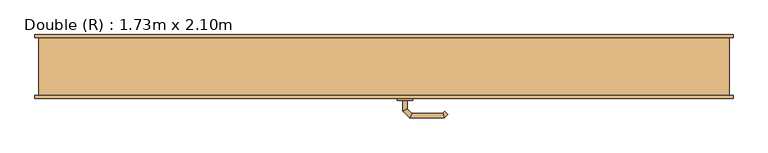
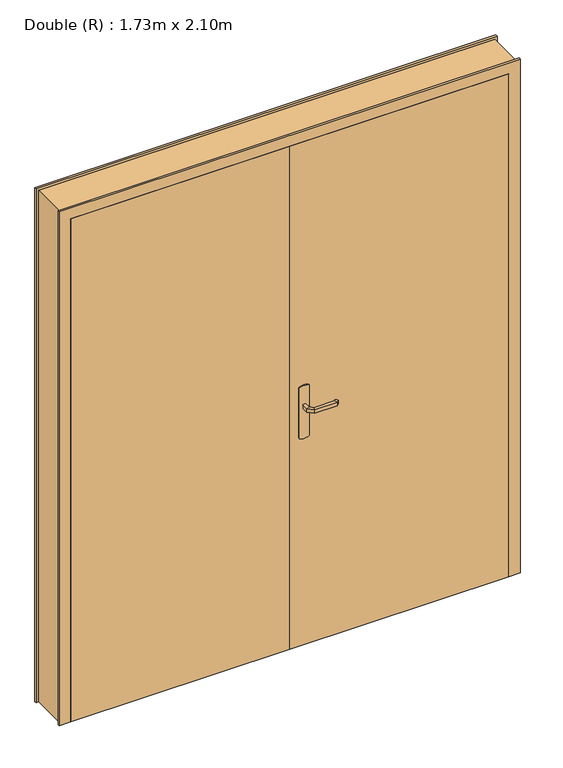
"""IFC4 building model written with IfcOpenShell, lengths in millimetres: door geometry, Double (R) : 1.73m x 2.10m."""

from ifc_helpers import new_model, si_unit, point, frame, frame_2d, origin, origin_with_axes, place, context, project, spatial, polyline, circle_curve, ellipse_curve, trimmed, segment, composite_curve, outline, extrude, faceted_brep, source, transform, mapped, element, save
from ifc_brep_helpers import plane_surface, cylinder_surface, advanced_brep


def double_r_1_73m_x_2_10m_095f5508(model_context):
    return source(origin(), model_context, "Body", "SolidModel", [
        advanced_brep(
        [(61.0, -38.0, 993.0), (61.0, -38.0, 1007.0), (49.0, -38.0, 1007.0), (49.0, -38.0, 993.0), (61.0, -15.5147955, 993.0), (61.0, -15.5147955, 1007.0), (49.0, -10.5442327, 1007.0), (49.0, -10.5442327, 993.0), (72.4852814, -4.0295141, 993.0), (72.4852814, -4.0295141, 1007.0), (67.5147186, 7.9704859, 1007.0), (67.5147186, 7.9704859, 993.0), (152.5605023, -4.0295141, 993.0), (152.5605023, -4.0295141, 1007.0), (157.531065, 7.9704859, 1007.0), (157.531065, 7.9704859, 993.0), (157.8742108, -9.3432226, 993.0), (166.3594922, -0.8579412, 993.0), (166.3594922, -0.8579412, 1007.0), (157.8742108, -9.3432226, 1007.0)],
        [
            (0, 1),
            (1, 2, circle_curve(frame((55.0, -38.0, 986.9542278), z_axis=(0.0, -1.0, 0.0), x_axis=(-1.0, 0.0, 0.0)), 20.9244589)),
            (2, 3),
            (3, 0, circle_curve(frame((55.0, -38.0, 1013.0457722), z_axis=(0.0, -1.0, 0.0), x_axis=(-1.0, 0.0, 0.0)), 20.9244589)),
            (0, 4),
            (4, 5),
            (5, 1),
            (5, 6, ellipse_curve(frame((55.0, -13.0295141, 986.9542278), z_axis=(-0.38268343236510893, -0.9238795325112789, 0.0), x_axis=(0.9238795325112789, -0.3826834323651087, 0.0)), 22.6484711, 20.9244589)),
            (6, 2),
            (6, 7),
            (7, 3),
            (7, 4, ellipse_curve(frame((55.0, -13.0295141, 1013.0457722), z_axis=(-0.38268343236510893, -0.9238795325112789, 0.0), x_axis=(0.9238795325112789, -0.3826834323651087, 0.0)), 22.6484711, 20.9244589)),
            (4, 8),
            (8, 9),
            (9, 5),
            (9, 10, ellipse_curve(frame((70.0, 1.9704859, 986.9542278), z_axis=(-0.9238795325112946, -0.38268343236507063, 0.0), x_axis=(0.3826834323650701, -0.9238795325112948, 0.0)), 22.6484711, 20.9244589)),
            (10, 6),
            (10, 11),
            (11, 7),
            (11, 8, ellipse_curve(frame((70.0, 1.9704859, 1013.0457722), z_axis=(-0.9238795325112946, -0.38268343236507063, 0.0), x_axis=(0.3826834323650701, -0.9238795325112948, 0.0)), 22.6484711, 20.9244589)),
            (8, 12),
            (12, 13),
            (13, 9),
            (13, 14, ellipse_curve(frame((155.0457837, 1.9704859, 986.9542278), z_axis=(-0.9238795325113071, 0.38268343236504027, 0.0), x_axis=(-0.38268343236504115, -0.9238795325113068, 0.0)), 22.6484711, 20.9244589)),
            (14, 10),
            (14, 15),
            (15, 11),
            (15, 12, ellipse_curve(frame((155.0457837, 1.9704859, 1013.0457722), z_axis=(-0.9238795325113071, 0.38268343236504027, 0.0), x_axis=(-0.38268343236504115, -0.9238795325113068, 0.0)), 22.6484711, 20.9244589)),
            (16, 17, circle_curve(frame((162.1168515, -5.1005819, 1013.0457722), z_axis=(0.7071067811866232, -0.7071067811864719, 0.0), x_axis=(0.7071067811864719, 0.7071067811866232, 0.0)), 20.9244589)),
            (17, 18),
            (18, 19, circle_curve(frame((162.1168515, -5.1005819, 986.9542278), z_axis=(0.7071067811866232, -0.7071067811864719, 0.0), x_axis=(0.7071067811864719, 0.7071067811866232, 0.0)), 20.9244589)),
            (19, 16),
            (12, 16),
            (19, 13),
            (18, 14),
            (17, 15),
        ],
        [
            plane_surface(frame((45.7804555, -38.0, 1000.0), z_axis=(0.0, -1.0, 0.0), x_axis=(0.0, 0.0, 1.0))),
            plane_surface(frame((61.0, -38.0, 993.0), z_axis=(1.0, 0.0, 0.0), x_axis=(0.0, 1.0, 0.0))),
            cylinder_surface(frame((55.0, -38.0, 986.9542278), z_axis=(0.0, -1.0, 0.0), x_axis=(-1.0, 0.0, 0.0)), 20.9244589),
            plane_surface(frame((49.0, -38.0, 1007.0), z_axis=(-1.0, 0.0, 0.0), x_axis=(0.0, 1.0, 0.0))),
            cylinder_surface(frame((55.0, -38.0, 1013.0457722), z_axis=(0.0, -1.0, 0.0), x_axis=(-1.0, 0.0, 0.0)), 20.9244589),
            plane_surface(frame((61.0, -15.5147955, 993.0), z_axis=(0.707106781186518, -0.707106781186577, 0.0), x_axis=(0.707106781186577, 0.707106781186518, 0.0))),
            cylinder_surface(frame((55.0, -13.0295141, 986.9542278), z_axis=(-0.7071067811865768, -0.7071067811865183, 0.0), x_axis=(-0.7071067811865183, 0.7071067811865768, 0.0)), 20.9244589),
            plane_surface(frame((49.0, -10.5442327, 1007.0), z_axis=(-0.7071067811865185, 0.7071067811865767, 0.0), x_axis=(0.7071067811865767, 0.7071067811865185, 0.0))),
            cylinder_surface(frame((55.0, -13.0295141, 1013.0457722), z_axis=(-0.7071067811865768, -0.7071067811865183, 0.0), x_axis=(-0.7071067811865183, 0.7071067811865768, 0.0)), 20.9244589),
            plane_surface(frame((72.4852814, -4.0295141, 993.0), z_axis=(0.0, -1.0, 0.0), x_axis=(1.0, 0.0, 0.0))),
            cylinder_surface(frame((70.0, 1.9704859, 986.9542278), z_axis=(-1.0, 0.0, 0.0), x_axis=(0.0, 1.0, 0.0)), 20.9244589),
            plane_surface(frame((67.5147186, 7.9704859, 1007.0), z_axis=(0.0, 1.0, 0.0), x_axis=(1.0, 0.0, 0.0))),
            cylinder_surface(frame((70.0, 1.9704859, 1013.0457722), z_axis=(-1.0, 0.0, 0.0), x_axis=(0.0, 1.0, 0.0)), 20.9244589),
            plane_surface(frame((162.1168515, -5.1005819, 990.7804555), z_axis=(0.7071067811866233, -0.7071067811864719, 0.0), x_axis=(0.7071067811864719, 0.7071067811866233, 0.0))),
            plane_surface(frame((152.5605023, -4.0295141, 993.0), z_axis=(-0.707106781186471, -0.7071067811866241, 0.0), x_axis=(0.7071067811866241, -0.707106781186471, 0.0))),
            cylinder_surface(frame((155.0457837, 1.9704859, 986.9542278), z_axis=(-0.7071067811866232, 0.7071067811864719, 0.0), x_axis=(0.7071067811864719, 0.7071067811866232, 0.0)), 20.9244589),
            plane_surface(frame((157.531065, 7.9704859, 1007.0), z_axis=(0.7071067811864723, 0.7071067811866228, 0.0), x_axis=(0.7071067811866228, -0.7071067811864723, 0.0))),
            cylinder_surface(frame((155.0457837, 1.9704859, 1013.0457722), z_axis=(-0.7071067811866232, 0.7071067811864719, 0.0), x_axis=(0.7071067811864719, 0.7071067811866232, 0.0)), 20.9244589),
        ],
        [
            (0, [[1, 2, 3, 4]]),
            (1, [[-1, 5, 6, 7]]),
            (2, [[-2, -7, 8, 9]]),
            (3, [[-3, -9, 10, 11]]),
            (4, [[-4, -11, 12, -5]]),
            (5, [[-6, 13, 14, 15]]),
            (6, [[-8, -15, 16, 17]]),
            (7, [[-10, -17, 18, 19]]),
            (8, [[-12, -19, 20, -13]]),
            (9, [[-14, 21, 22, 23]]),
            (10, [[-16, -23, 24, 25]]),
            (11, [[-18, -25, 26, 27]]),
            (12, [[-20, -27, 28, -21]]),
            (13, [[29, 30, 31, 32]]),
            (14, [[-22, 33, -32, 34]]),
            (15, [[-24, -34, -31, 35]]),
            (16, [[-26, -35, -30, 36]]),
            (17, [[-28, -36, -29, -33]]),
        ],
    ),
        advanced_brep(
        [(49.0, -88.0, 1007.0), (61.0, -88.0, 1007.0), (61.0, -88.0, 993.0), (49.0, -88.0, 993.0), (49.0, -115.6509507, 1007.0), (61.0, -110.680388, 1007.0), (61.0, -110.680388, 993.0), (49.0, -115.6509507, 993.0), (67.37721, -134.0281607, 1007.0), (72.3477727, -122.0281607, 1007.0), (72.3477727, -122.0281607, 993.0), (67.37721, -134.0281607, 993.0), (157.503922, -134.0281607, 1007.0), (152.5333592, -122.0281607, 1007.0), (152.5333592, -122.0281607, 993.0), (157.503922, -134.0281607, 993.0), (166.3323491, -125.1997336, 1007.0), (166.3323491, -125.1997336, 993.0), (157.8470677, -116.7144522, 993.0), (157.8470677, -116.7144522, 1007.0)],
        [
            (0, 1, circle_curve(frame((55.0, -88.0, 986.9542278), z_axis=(0.0, 1.0, 0.0), x_axis=(1.0, 0.0, 0.0)), 20.9244589)),
            (1, 2),
            (2, 3, circle_curve(frame((55.0, -88.0, 1013.0457722), z_axis=(0.0, 1.0, 0.0), x_axis=(1.0, 0.0, 0.0)), 20.9244589)),
            (3, 0),
            (0, 4),
            (4, 5, ellipse_curve(frame((55.0, -113.1656693, 986.9542278), z_axis=(-0.3826834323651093, 0.9238795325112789, 0.0), x_axis=(0.9238795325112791, 0.38268343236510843, 0.0)), 22.6484711, 20.9244589)),
            (5, 1),
            (5, 6),
            (6, 2),
            (6, 7, ellipse_curve(frame((55.0, -113.1656693, 1013.0457722), z_axis=(-0.3826834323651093, 0.9238795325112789, 0.0), x_axis=(0.9238795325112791, 0.38268343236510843, 0.0)), 22.6484711, 20.9244589)),
            (7, 3),
            (7, 4),
            (4, 8),
            (8, 9, ellipse_curve(frame((69.8624914, -128.0281607, 986.9542278), z_axis=(-0.9238795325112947, 0.38268343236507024, 0.0), x_axis=(0.3826834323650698, 0.9238795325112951, 0.0)), 22.6484711, 20.9244589)),
            (9, 5),
            (9, 10),
            (10, 6),
            (10, 11, ellipse_curve(frame((69.8624914, -128.0281607, 1013.0457722), z_axis=(-0.9238795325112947, 0.38268343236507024, 0.0), x_axis=(0.3826834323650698, 0.9238795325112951, 0.0)), 22.6484711, 20.9244589)),
            (11, 7),
            (11, 8),
            (8, 12),
            (12, 13, ellipse_curve(frame((155.0186406, -128.0281607, 986.9542278), z_axis=(-0.9238795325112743, -0.3826834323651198, 0.0), x_axis=(-0.38268343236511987, 0.9238795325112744, 0.0)), 22.6484711, 20.9244589)),
            (13, 9),
            (13, 14),
            (14, 10),
            (14, 15, ellipse_curve(frame((155.0186406, -128.0281607, 1013.0457722), z_axis=(-0.9238795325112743, -0.3826834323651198, 0.0), x_axis=(-0.38268343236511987, 0.9238795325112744, 0.0)), 22.6484711, 20.9244589)),
            (15, 11),
            (15, 12),
            (16, 17),
            (17, 18, circle_curve(frame((162.0897084, -120.9570929, 1013.0457722), z_axis=(0.7071067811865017, 0.7071067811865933, 0.0), x_axis=(-0.7071067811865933, 0.7071067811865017, 0.0)), 20.9244589)),
            (18, 19),
            (19, 16, circle_curve(frame((162.0897084, -120.9570929, 986.9542278), z_axis=(0.7071067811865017, 0.7071067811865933, 0.0), x_axis=(-0.7071067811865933, 0.7071067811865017, 0.0)), 20.9244589)),
            (12, 16),
            (19, 13),
            (18, 14),
            (17, 15),
        ],
        [
            plane_surface(frame((45.7804555, -88.0, 1000.0), z_axis=(0.0, 1.0, 0.0), x_axis=(0.0, 0.0, -1.0))),
            cylinder_surface(frame((55.0, -88.0, 986.9542278), z_axis=(0.0, 1.0, 0.0), x_axis=(1.0, 0.0, 0.0)), 20.9244589),
            plane_surface(frame((61.0, -88.0, 1007.0), z_axis=(1.0, 0.0, 0.0), x_axis=(0.0, -1.0, 0.0))),
            cylinder_surface(frame((55.0, -88.0, 1013.0457722), z_axis=(0.0, 1.0, 0.0), x_axis=(1.0, 0.0, 0.0)), 20.9244589),
            plane_surface(frame((49.0, -88.0, 993.0), z_axis=(-1.0, 0.0, 0.0), x_axis=(0.0, -1.0, 0.0))),
            cylinder_surface(frame((55.0, -113.1656693, 986.9542278), z_axis=(-0.7071067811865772, 0.7071067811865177, 0.0), x_axis=(0.7071067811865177, 0.7071067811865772, 0.0)), 20.9244589),
            plane_surface(frame((61.0, -110.680388, 1007.0), z_axis=(0.7071067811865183, 0.7071067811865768, 0.0), x_axis=(0.7071067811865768, -0.7071067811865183, 0.0))),
            cylinder_surface(frame((55.0, -113.1656693, 1013.0457722), z_axis=(-0.7071067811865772, 0.7071067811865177, 0.0), x_axis=(0.7071067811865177, 0.7071067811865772, 0.0)), 20.9244589),
            plane_surface(frame((49.0, -115.6509507, 993.0), z_axis=(-0.707106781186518, -0.707106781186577, 0.0), x_axis=(0.707106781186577, -0.707106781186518, 0.0))),
            cylinder_surface(frame((69.8624914, -128.0281607, 986.9542278), z_axis=(-1.0, 0.0, 0.0), x_axis=(0.0, 1.0, 0.0)), 20.9244589),
            plane_surface(frame((72.3477727, -122.0281607, 1007.0), z_axis=(0.0, 1.0, 0.0), x_axis=(1.0, 0.0, 0.0))),
            cylinder_surface(frame((69.8624914, -128.0281607, 1013.0457722), z_axis=(-1.0, 0.0, 0.0), x_axis=(0.0, 1.0, 0.0)), 20.9244589),
            plane_surface(frame((67.37721, -134.0281607, 993.0), z_axis=(0.0, -1.0, 0.0), x_axis=(1.0, 0.0, 0.0))),
            plane_surface(frame((162.0897084, -120.9570929, 1009.2195445), z_axis=(0.7071067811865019, 0.7071067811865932, 0.0), x_axis=(0.7071067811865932, -0.7071067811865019, 0.0))),
            cylinder_surface(frame((155.0186406, -128.0281607, 986.9542278), z_axis=(-0.7071067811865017, -0.7071067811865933, 0.0), x_axis=(-0.7071067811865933, 0.7071067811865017, 0.0)), 20.9244589),
            plane_surface(frame((152.5333592, -122.0281607, 1007.0), z_axis=(-0.7071067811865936, 0.7071067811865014, 0.0), x_axis=(0.7071067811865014, 0.7071067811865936, 0.0))),
            cylinder_surface(frame((155.0186406, -128.0281607, 1013.0457722), z_axis=(-0.7071067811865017, -0.7071067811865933, 0.0), x_axis=(-0.7071067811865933, 0.7071067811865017, 0.0)), 20.9244589),
            plane_surface(frame((157.503922, -134.0281607, 993.0), z_axis=(0.707106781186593, -0.7071067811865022, 0.0), x_axis=(0.7071067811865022, 0.707106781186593, 0.0))),
        ],
        [
            (0, [[1, 2, 3, 4]]),
            (1, [[-1, 5, 6, 7]]),
            (2, [[-2, -7, 8, 9]]),
            (3, [[-3, -9, 10, 11]]),
            (4, [[-4, -11, 12, -5]]),
            (5, [[-6, 13, 14, 15]]),
            (6, [[-8, -15, 16, 17]]),
            (7, [[-10, -17, 18, 19]]),
            (8, [[-12, -19, 20, -13]]),
            (9, [[-14, 21, 22, 23]]),
            (10, [[-16, -23, 24, 25]]),
            (11, [[-18, -25, 26, 27]]),
            (12, [[-20, -27, 28, -21]]),
            (13, [[29, 30, 31, 32]]),
            (14, [[-22, 33, -32, 34]]),
            (15, [[-24, -34, -31, 35]]),
            (16, [[-26, -35, -30, 36]]),
            (17, [[-28, -36, -29, -33]]),
        ],
    ),
        extrude(outline(composite_curve([segment(trimmed(circle_curve(frame_2d((1045.3589838, 55.0)), 40.0), [point((1080.0, 75.0))], [point((1080.0, 35.0))], False, "CARTESIAN"), True, "CONTINUOUS"), segment(polyline([(1080.0, 35.0), (870.0, 35.0)]), True, "CONTINUOUS"), segment(trimmed(circle_curve(frame_2d((904.6410162, 55.0)), 40.0), [point((870.0, 35.0))], [point((870.0, 75.0))], False, "CARTESIAN"), True, "CONTINUOUS"), segment(polyline([(870.0, 75.0), (1080.0, 75.0)]), True, "CONTINUOUS")], self_intersect=False)), frame((0.0, -43.0, 0.0), z_axis=(0.0, 1.0, 0.0), x_axis=(0.0, 0.0, 1.0)), (0.0, 0.0, 1.0), 5.0),
        extrude(outline(composite_curve([segment(trimmed(circle_curve(frame_2d((904.6410162, 55.0)), 40.0), [point((870.0, 35.0))], [point((870.0, 75.0))], False, "CARTESIAN"), True, "CONTINUOUS"), segment(polyline([(870.0, 75.0), (1080.0, 75.0)]), True, "CONTINUOUS"), segment(trimmed(circle_curve(frame_2d((1045.3589838, 55.0)), 40.0), [point((1080.0, 75.0))], [point((1080.0, 35.0))], False, "CARTESIAN"), True, "CONTINUOUS"), segment(polyline([(1080.0, 35.0), (870.0, 35.0)]), True, "CONTINUOUS")], self_intersect=False)), frame((0.0, -88.0, 0.0), z_axis=(0.0, 1.0, 0.0), x_axis=(0.0, 0.0, 1.0)), (0.0, 0.0, 1.0), 5.0),
        faceted_brep([(-900.0, -75.0, 0.0), (-900.0, 75.0, 0.0), (-910.0, 75.0, 0.0), (-910.0, 83.0, 0.0), (-850.0, 83.0, 0.0), (-850.0, -43.0, 0.0), (-865.0, -43.0, 0.0), (-865.0, -83.0, 0.0), (-910.0, -83.0, 0.0), (-910.0, -75.0, 0.0), (-900.0, -75.0, 2135.0), (-900.0, 75.0, 2135.0), (900.0, 75.0, 2135.0), (900.0, 75.0, 0.0), (910.0, 75.0, 0.0), (910.0, 75.0, 2145.0), (-910.0, 75.0, 2145.0), (-910.0, 83.0, 2145.0), (910.0, 83.0, 2145.0), (910.0, 83.0, 0.0), (850.0, 83.0, 0.0), (850.0, 83.0, 2085.0), (-850.0, 83.0, 2085.0), (-850.0, -43.0, 2085.0), (850.0, -43.0, 2085.0), (850.0, -43.0, 0.0), (865.0, -43.0, 0.0), (865.0, -43.0, 2100.0), (-865.0, -43.0, 2100.0), (-865.0, -83.0, 2100.0), (865.0, -83.0, 2100.0), (865.0, -83.0, 0.0), (910.0, -83.0, 0.0), (910.0, -83.0, 2145.0), (-910.0, -83.0, 2145.0), (-910.0, -75.0, 2145.0), (910.0, -75.0, 2145.0), (910.0, -75.0, 0.0), (900.0, -75.0, 0.0), (900.0, -75.0, 2135.0)], [[[0, 1, 2, 3, 4, 5, 6, 7, 8, 9]], [[1, 0, 10, 11]], [[2, 1, 11, 12, 13, 14, 15, 16]], [[3, 2, 16, 17]], [[4, 3, 17, 18, 19, 20, 21, 22]], [[5, 4, 22, 23]], [[6, 5, 23, 24, 25, 26, 27, 28]], [[7, 6, 28, 29]], [[8, 7, 29, 30, 31, 32, 33, 34]], [[9, 8, 34, 35]], [[0, 9, 35, 36, 37, 38, 39, 10]], [[12, 39, 38, 13]], [[38, 37, 32, 31, 26, 25, 20, 19, 14, 13]], [[18, 15, 14, 19]], [[24, 21, 20, 25]], [[30, 27, 26, 31]], [[36, 33, 32, 37]], [[11, 10, 39, 12]], [[17, 16, 15, 18]], [[23, 22, 21, 24]], [[29, 28, 27, 30]], [[35, 34, 33, 36]]]),
        extrude(outline(polyline([(865.0, -83.0), (0.0, -83.0), (0.0, -43.0), (865.0, -43.0), (865.0, -83.0)])), origin_with_axes(), (0.0, 0.0, 1.0), 2100.0),
        extrude(outline(polyline([(0.0, -83.0), (-865.0, -83.0), (-865.0, -43.0), (0.0, -43.0), (0.0, -83.0)])), origin_with_axes(), (0.0, 0.0, 1.0), 2100.0),
    ])


if __name__ == "__main__":
    model = new_model("IFC4")
    model_context = context("Model", 3, world=origin())
    ifc_project = project(units=[si_unit("LENGTHUNIT", "METRE", prefix="MILLI")], contexts=[model_context])
    site = spatial("IfcSite", under=ifc_project)
    building = spatial("IfcBuilding", under=site)
    placement = place(None, origin())
    double_r_1_73m_x_2_10m_shape = double_r_1_73m_x_2_10m_095f5508(model_context)
    element("IfcDoor", 1, ObjectType="Double (R) : 1.73m x 2.10m", at=placement, inside=building, context=model_context, shape_type="MappedRepresentation", body=[
        mapped(double_r_1_73m_x_2_10m_shape, transform((0.0, 0.0, 0.0), x_axis=(1.0, 0.0, 0.0), y_axis=(0.0, 1.0, 0.0), z_axis=(0.0, 0.0, 1.0))),
    ])
    save(model, "model.ifc")
